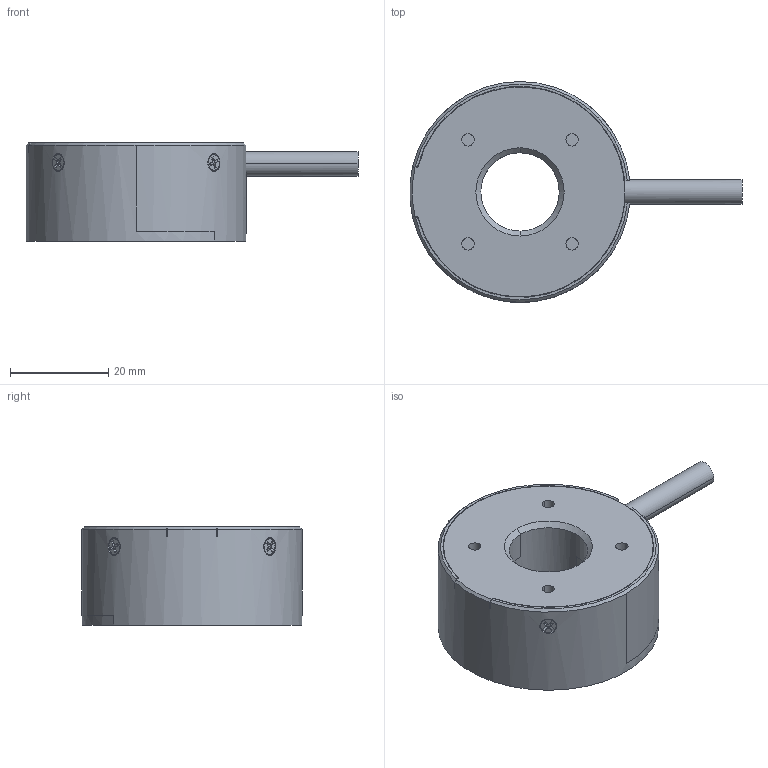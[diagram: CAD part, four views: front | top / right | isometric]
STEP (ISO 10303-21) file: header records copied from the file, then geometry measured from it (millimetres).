
FILE_DESCRIPTION((''),'2;1');
FILE_NAME('PRT0001','2022-09-02T11:35:24',('qiaoxuan5'),(''),'CREO PARAMETRIC BY PTC INC, 2020044','CREO PARAMETRIC BY PTC INC, 2020044','');
FILE_SCHEMA(('CONFIG_CONTROL_DESIGN'));
Length unit declared in the file: metre
Products named in the file (1): PRT0001
Bounding box: 67.7 x 45 x 20 mm (x, y, z)
Volume: 26328.1 mm3; surface area: 8066.4 mm2
Topology: 1 solids, 5 shells, 348 faces, 910 edges, 589 vertices
Faces by surface type: plane 220, cylinder 90, cone 36, torus 2
Entity records: 11128 total; most frequent: CARTESIAN_POINT 2636, ORIENTED_EDGE 1820, DIRECTION 1662, EDGE_CURVE 910, VERTEX_POINT 589, VECTOR 556, LINE 556, AXIS2_PLACEMENT_3D 553
